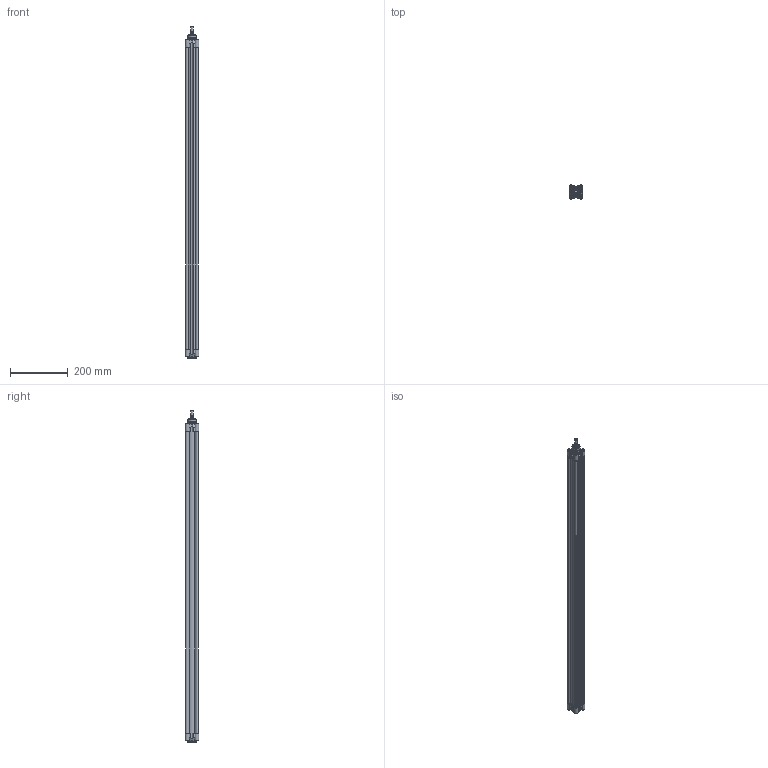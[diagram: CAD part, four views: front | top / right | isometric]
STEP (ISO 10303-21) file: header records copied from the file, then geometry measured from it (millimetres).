
FILE_DESCRIPTION(/* description */ ('CILINDRO D.E. MAGNETICO AMMORTIZZATO ISO 15552'),/* implementation_level */ '2;1');
FILE_NAME(/* name */ 'T:\Archivio Inventor\- 00 NUOVI STP PER SITO CON STELO CHE SI MUOVE\SERIE H - U\SERIE HDM\HDM032-TUBO NUOVO\HDM032.1000.GS.M.stp',/* time_stamp */ '2018-07-25T14:31:43+02:00',/* author */ ('carlo.corazza'),/* organization */ (''),/* preprocessor_version */ 'ST-DEVELOPER v16.5',/* originating_system */ 'Autodesk Inventor 2017',/* authorisation */ '');
FILE_SCHEMA (('AUTOMOTIVE_DESIGN { 1 0 10303 214 3 1 1 }'));
Length unit declared in the file: millimetre
Products named in the file (5): HDM032.1000.GS.M; TP; STELO-1000; TA; CORPO-1000
Assembly tree (4 placements, depth 2):
  HDM032.1000.GS.M
    TP
    STELO-1000
    TA
    CORPO-1000
Bounding box: 47 x 47 x 1146 mm (x, y, z)
Volume: 738084.5 mm3; surface area: 571427.4 mm2
Topology: 4 solids, 18 shells, 969 faces, 2356 edges, 1494 vertices
Faces by surface type: plane 330, cylinder 260, bspline 190, cone 86, torus 83, sphere 20
Full cylindrical faces by diameter (mm): 2 x2, 2.1 x2, 4 x2, 4.5 x2, 4.917 x8, 6 x8, 6.2 x8, 6.3 x4, 7 x2, 7.8 x4, 7.9 x3, 8 x4, 8.566 x2, 10 x9, 10.3 x8, 11.6 x1, 12 x1, 12.8 x1, 12.847 x1, 16 x1, 17 x2, 22 x3, 28 x1, 30 x2, 32 x1
Entity records: 31186 total; most frequent: CARTESIAN_POINT 9171, ORIENTED_EDGE 4162, DIRECTION 4048, EDGE_CURVE 2081, AXIS2_PLACEMENT_3D 1569, VERTEX_POINT 1436, EDGE_LOOP 1302, FACE_OUTER_BOUND 969
